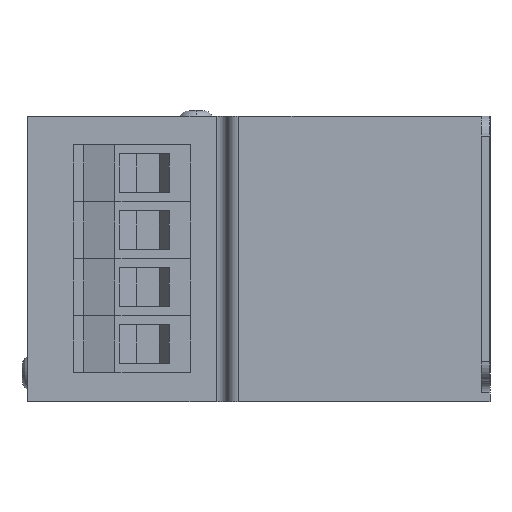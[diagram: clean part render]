
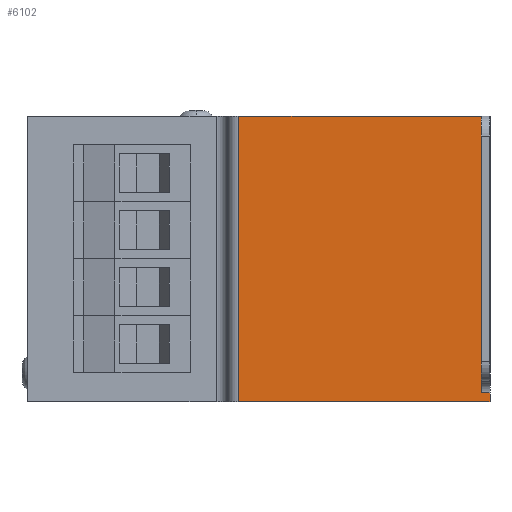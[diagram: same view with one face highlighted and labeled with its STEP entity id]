
A CAD part, left-side view. The second image highlights one B-rep face of the part: STEP entity #6102.
In plain terms, the highlighted planar face has unit normal (-1, 0, 0).
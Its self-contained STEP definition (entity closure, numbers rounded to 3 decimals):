
#16 = ORIENTED_EDGE ( 'NONE', *, *, #423, .T. ) ;
#179 = CARTESIAN_POINT ( 'NONE',  ( -65.5, 0., -23.5 ) ) ;
#211 = ORIENTED_EDGE ( 'NONE', *, *, #1422, .T. ) ;
#232 = EDGE_CURVE ( 'NONE', #6327, #843, #1630, .T. ) ;
#423 = EDGE_CURVE ( 'NONE', #6327, #1192, #1547, .T. ) ;
#592 = VERTEX_POINT ( 'NONE', #3831 ) ;
#843 = VERTEX_POINT ( 'NONE', #6555 ) ;
#950 = DIRECTION ( 'NONE',  ( 0., 1., 0. ) ) ;
#955 = CARTESIAN_POINT ( 'NONE',  ( -65.5, 1.5, -25. ) ) ;
#985 = VECTOR ( 'NONE', #3144, 1000. ) ;
#1192 = VERTEX_POINT ( 'NONE', #1631 ) ;
#1208 = DIRECTION ( 'NONE',  ( 0., 0., -1. ) ) ;
#1223 = EDGE_LOOP ( 'NONE', ( #3216, #211, #4771, #1629, #16, #4615 ) ) ;
#1422 = EDGE_CURVE ( 'NONE', #1781, #592, #2312, .T. ) ;
#1547 = LINE ( 'NONE', #5278, #5836 ) ;
#1583 = VERTEX_POINT ( 'NONE', #2474 ) ;
#1629 = ORIENTED_EDGE ( 'NONE', *, *, #232, .F. ) ;
#1630 = LINE ( 'NONE', #6025, #2217 ) ;
#1631 = CARTESIAN_POINT ( 'NONE',  ( -65.5, 1.5, -23.5 ) ) ;
#1781 = VERTEX_POINT ( 'NONE', #4768 ) ;
#1856 = LINE ( 'NONE', #4025, #2960 ) ;
#2217 = VECTOR ( 'NONE', #6538, 1000. ) ;
#2312 = LINE ( 'NONE', #2901, #2936 ) ;
#2474 = CARTESIAN_POINT ( 'NONE',  ( -65.5, 1.5, 25. ) ) ;
#2591 = AXIS2_PLACEMENT_3D ( 'NONE', #3070, #3111, #5886 ) ;
#2901 = CARTESIAN_POINT ( 'NONE',  ( -65.5, 44., -25. ) ) ;
#2936 = VECTOR ( 'NONE', #1208, 1000. ) ;
#2960 = VECTOR ( 'NONE', #3739, 1000. ) ;
#3046 = CARTESIAN_POINT ( 'NONE',  ( -65.5, 1.5, 25. ) ) ;
#3070 = CARTESIAN_POINT ( 'NONE',  ( -65.5, 1.5, -25. ) ) ;
#3111 = DIRECTION ( 'NONE',  ( 1., 0., 0. ) ) ;
#3144 = DIRECTION ( 'NONE',  ( 0., 1., 0. ) ) ;
#3216 = ORIENTED_EDGE ( 'NONE', *, *, #4795, .T. ) ;
#3594 = FACE_OUTER_BOUND ( 'NONE', #1223, .T. ) ;
#3739 = DIRECTION ( 'NONE',  ( 0., 0., 1. ) ) ;
#3831 = CARTESIAN_POINT ( 'NONE',  ( -65.5, 44., -25. ) ) ;
#4025 = CARTESIAN_POINT ( 'NONE',  ( -65.5, 1.5, -25. ) ) ;
#4272 = PLANE ( 'NONE',  #2591 ) ;
#4352 = EDGE_CURVE ( 'NONE', #1192, #1583, #1856, .T. ) ;
#4615 = ORIENTED_EDGE ( 'NONE', *, *, #4352, .T. ) ;
#4768 = CARTESIAN_POINT ( 'NONE',  ( -65.5, 44., 25. ) ) ;
#4771 = ORIENTED_EDGE ( 'NONE', *, *, #6169, .F. ) ;
#4795 = EDGE_CURVE ( 'NONE', #1583, #1781, #5713, .T. ) ;
#5278 = CARTESIAN_POINT ( 'NONE',  ( -65.5, 1.5, -23.5 ) ) ;
#5549 = VECTOR ( 'NONE', #6895, 1000. ) ;
#5713 = LINE ( 'NONE', #3046, #5549 ) ;
#5817 = LINE ( 'NONE', #955, #985 ) ;
#5836 = VECTOR ( 'NONE', #950, 1000. ) ;
#5886 = DIRECTION ( 'NONE',  ( 0., 0., -1. ) ) ;
#6025 = CARTESIAN_POINT ( 'NONE',  ( -65.5, 0., -25. ) ) ;
#6102 = ADVANCED_FACE ( 'NONE', ( #3594 ), #4272, .F. ) ;
#6169 = EDGE_CURVE ( 'NONE', #843, #592, #5817, .T. ) ;
#6327 = VERTEX_POINT ( 'NONE', #179 ) ;
#6538 = DIRECTION ( 'NONE',  ( 0., 0., -1. ) ) ;
#6555 = CARTESIAN_POINT ( 'NONE',  ( -65.5, 0., -25. ) ) ;
#6895 = DIRECTION ( 'NONE',  ( 0., 1., 0. ) ) ;
